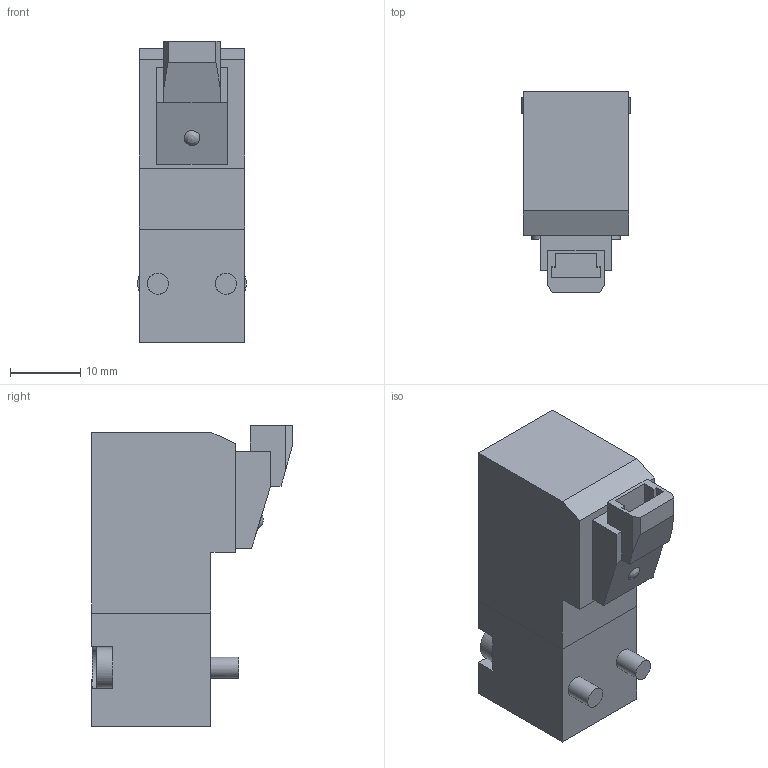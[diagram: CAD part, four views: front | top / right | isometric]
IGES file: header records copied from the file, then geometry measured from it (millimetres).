
Global section: file name: N3##_R7L#-8; native system: Autodesk Inventor 2014; preprocessor: unknown; author: A. Manieri; organization: Pneumax S.p.A.; date: 20160913.141955; units: millimetre
Bounding box: 15.5 x 28.6 x 42.97 mm (x, y, z)
Volume: 12258.5 mm3; surface area: 4115.4 mm2
Topology: 1 solids, 1 shells, 98 faces, 252 edges, 165 vertices
Faces by surface type: bspline 98
